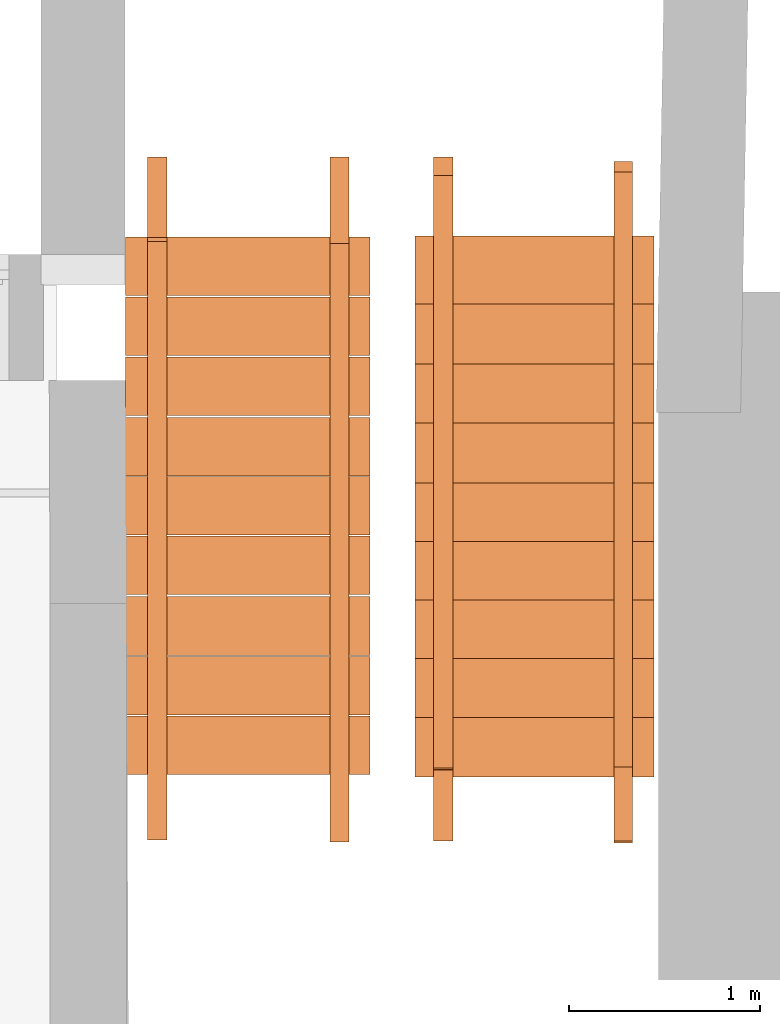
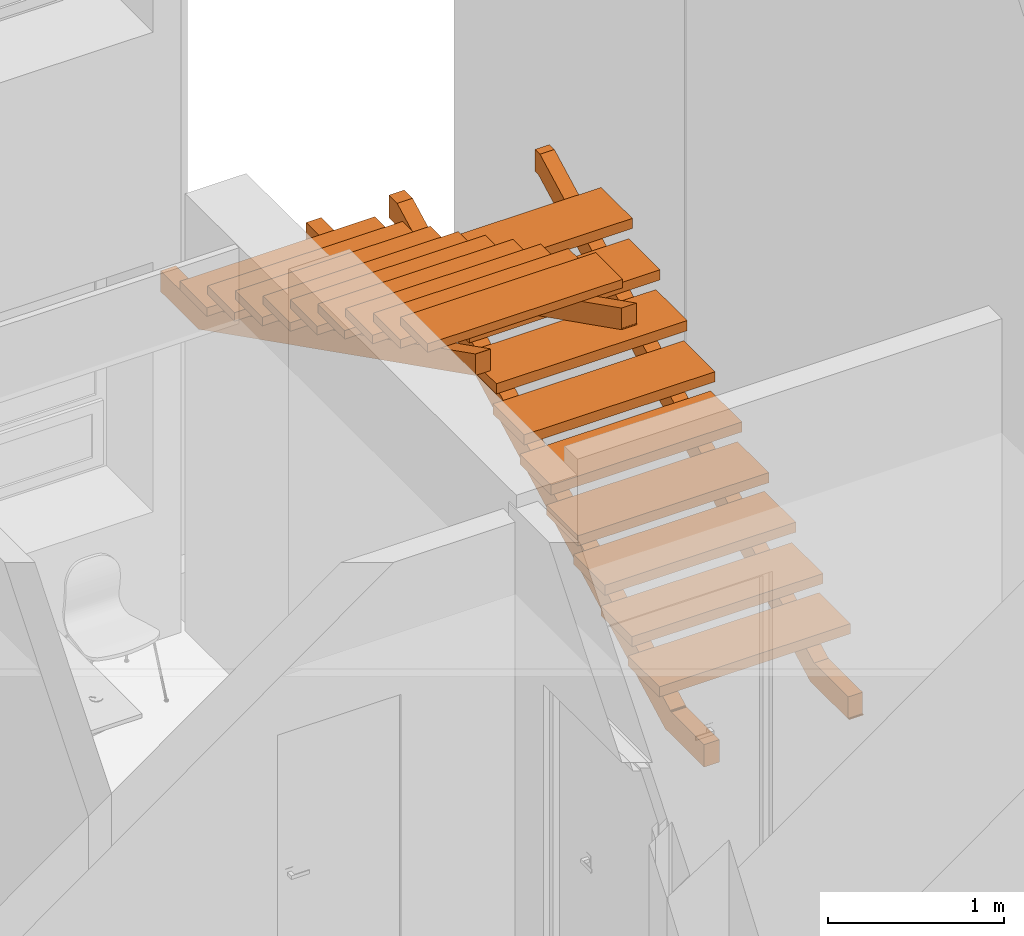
# One storey, part 25 of 25: 6 proxies.
"""IFC2X3 building model written with IfcOpenShell, lengths in millimetres."""

from ifc_helpers import new_model, entity, si_unit, converted_unit, derived_unit, direction, frame, frame_2d, origin, origin_2d_with_axis, place, context, subcontext, project, spatial, polyline, rectangle, outline, extrude, source, transform, mapped, type_object, type_shapes, element, save


model = new_model("IFC2X3")

# Units and contexts
model_context = context("Model", 3, precision=0.01, world=origin(), true_north=direction((6.12303176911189e-17, 1.0)))
context_of_model = context(None, 3, precision=0.01, world=origin(), true_north=direction((6.12303176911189e-17, 1.0)))
body_context = subcontext(model_context, "Body", "Model", "MODEL_VIEW")
ifc_project = project(units=[si_unit("LENGTHUNIT", "METRE", prefix="MILLI"), si_unit("AREAUNIT", "SQUARE_METRE"), si_unit("VOLUMEUNIT", "CUBIC_METRE"), converted_unit("PLANEANGLEUNIT", "DEGREE", entity("IfcRatioMeasure", 0.0174532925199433), si_unit("PLANEANGLEUNIT", "RADIAN"), dimensions=[0, 0, 0, 0, 0, 0, 0]), si_unit("MASSUNIT", "GRAM", prefix="KILO"), derived_unit("MASSDENSITYUNIT", [(si_unit("MASSUNIT", "GRAM", prefix="KILO"), 1), (si_unit("LENGTHUNIT", "METRE"), -3)]), si_unit("TIMEUNIT", "SECOND"), si_unit("FREQUENCYUNIT", "HERTZ"), si_unit("THERMODYNAMICTEMPERATUREUNIT", "DEGREE_CELSIUS"), derived_unit("THERMALTRANSMITTANCEUNIT", [(si_unit("MASSUNIT", "GRAM", prefix="KILO"), 1), (si_unit("THERMODYNAMICTEMPERATUREUNIT", "KELVIN"), -1), (si_unit("TIMEUNIT", "SECOND"), -3)]), derived_unit("VOLUMETRICFLOWRATEUNIT", [(si_unit("LENGTHUNIT", "METRE"), 3), (si_unit("TIMEUNIT", "SECOND"), -1)]), si_unit("ELECTRICCURRENTUNIT", "AMPERE"), si_unit("ELECTRICVOLTAGEUNIT", "VOLT"), si_unit("POWERUNIT", "WATT"), si_unit("FORCEUNIT", "NEWTON", prefix="KILO"), si_unit("ILLUMINANCEUNIT", "LUX"), si_unit("LUMINOUSFLUXUNIT", "LUMEN"), si_unit("LUMINOUSINTENSITYUNIT", "CANDELA"), derived_unit("USERDEFINED", [(si_unit("MASSUNIT", "GRAM", prefix="KILO"), -1), (si_unit("LENGTHUNIT", "METRE"), -2), (si_unit("TIMEUNIT", "SECOND"), 3), (si_unit("LUMINOUSFLUXUNIT", "LUMEN"), 1)]), derived_unit("LINEARVELOCITYUNIT", [(si_unit("LENGTHUNIT", "METRE"), 1), (si_unit("TIMEUNIT", "SECOND"), -1)]), si_unit("PRESSUREUNIT", "PASCAL"), derived_unit("USERDEFINED", [(si_unit("LENGTHUNIT", "METRE"), -2), (si_unit("MASSUNIT", "GRAM", prefix="KILO"), 1), (si_unit("TIMEUNIT", "SECOND"), -2)])], contexts=[model_context, context_of_model])

# Site, building, storey, space
site_placement = place(None, frame((121442.264707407, 135347.995453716, -1800.0)))
site = spatial("IfcSite", under=ifc_project, at=site_placement, Name="Surface", CompositionType="ELEMENT")
building_placement = place(site_placement, origin())
building = spatial("IfcBuilding", under=site, at=building_placement, CompositionType="ELEMENT")
storey_placement = place(building_placement, frame((0.0, 0.0, 1800.0)))
storey = spatial("IfcBuildingStorey", under=building, at=storey_placement, Name="1 korrus", CompositionType="ELEMENT", Elevation=1800.00000000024)
space_placement = place(storey_placement, origin())
space = spatial("IfcSpace", under=storey, at=space_placement, Name="101", CompositionType="ELEMENT", InteriorOrExteriorSpace="INTERNAL")

# Proxies
building_element_proxy_type_1 = type_object("IfcBuildingElementProxyType", Name="Stairs11", PredefinedType="NOTDEFINED")
shared_shape_1 = source(origin(), body_context, "Body", "SweptSolid", [
    extrude(rectangle(XDim=1251.69137401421, YDim=355.000000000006, at=origin_2d_with_axis()), frame((-83176.1173177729, -114762.381891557, 3238.81967137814), z_axis=(0.0, 0.0, 1.0), x_axis=(-1.0, 0.0, 0.0)), (0.0, 0.0, 1.0), 69.9999999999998),
    extrude(rectangle(XDim=1251.69137401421, YDim=355.000000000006, at=origin_2d_with_axis()), frame((-83176.1173177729, -117237.594858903, 1930.25691533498), z_axis=(0.0, 0.0, 1.0), x_axis=(-1.0, 0.0, 0.0)), (0.0, 0.0, 1.0), 70.0000000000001),
    extrude(rectangle(XDim=1251.69137401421, YDim=355.000000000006, at=origin_2d_with_axis()), frame((-83176.1173177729, -116927.98585556, 2090.25691533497), z_axis=(0.0, 0.0, 1.0), x_axis=(-1.0, 0.0, 0.0)), (0.0, 0.0, 1.0), 70.0000000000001),
    extrude(rectangle(XDim=1251.69137401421, YDim=355.000000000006, at=origin_2d_with_axis()), frame((-83176.1173177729, -116617.138640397, 2257.75691533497), z_axis=(0.0, 0.0, 1.0), x_axis=(-1.0, 0.0, 0.0)), (0.0, 0.0, 1.0), 70.0000000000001),
    extrude(rectangle(XDim=1251.69137401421, YDim=355.000000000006, at=frame_2d((0.0, -1.73230318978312e-11), x_axis=(1.0, 0.0))), frame((-83176.1173177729, -116310.882717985, 2415.24674274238), z_axis=(0.0, 0.0, 1.0), x_axis=(-1.0, 0.0, 0.0)), (0.0, 0.0, 1.0), 69.9999999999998),
    extrude(rectangle(XDim=1251.69137401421, YDim=355.000000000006, at=origin_2d_with_axis()), frame((-83176.1173177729, -116006.939473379, 2582.74674274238), z_axis=(0.0, 0.0, 1.0), x_axis=(-1.0, 0.0, 0.0)), (0.0, 0.0, 1.0), 69.9999999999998),
    extrude(rectangle(XDim=1251.69137401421, YDim=355.000000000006, at=frame_2d((0.0, 1.73230318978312e-11), x_axis=(1.0, 0.0))), frame((-83176.1173177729, -115700.977378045, 2745.24674274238), z_axis=(0.0, 0.0, 1.0), x_axis=(-1.0, 0.0, 0.0)), (0.0, 0.0, 1.0), 69.9999999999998),
    extrude(rectangle(XDim=1251.69137401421, YDim=355.000000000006, at=frame_2d((0.0, 1.73230318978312e-11), x_axis=(1.0, 0.0))), frame((-83176.1173177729, -115384.71724709, 2907.74674274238), z_axis=(0.0, 0.0, 1.0), x_axis=(-1.0, 0.0, 0.0)), (0.0, 0.0, 1.0), 69.9999999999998),
    extrude(rectangle(XDim=1251.69137401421, YDim=355.000000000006, at=origin_2d_with_axis()), frame((-83176.1173177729, -115077.381891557, 3073.81967137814), z_axis=(0.0, 0.0, 1.0), x_axis=(-1.0, 0.0, 0.0)), (0.0, 0.0, 1.0), 69.9999999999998),
])
type_shapes(building_element_proxy_type_1, [shared_shape_1])
proxy_1_placement = place(space_placement, frame((0.0, 0.0, -1800.0)))
element("IfcBuildingElementProxy", 1, at=proxy_1_placement, inside=space, type_object=building_element_proxy_type_1, Name="Stairs11:Stairs11", ObjectType="Stairs11", context=body_context, shape_type="MappedRepresentation", body=[
    mapped(shared_shape_1, transform((0.0, 0.0, 0.0), scale=1.0)),
])
building_element_proxy_type_2 = type_object("IfcBuildingElementProxyType", Name="Stairs12", PredefinedType="NOTDEFINED")
shared_shape_2 = source(origin(), body_context, "Body", "SweptSolid", [
    extrude(outline(polyline([(-982.677577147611, 146.328789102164), (-1372.23370149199, -60.8018763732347), (-1368.55249613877, -67.7252167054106), (-1368.40472550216, -67.646645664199), (-1298.78642627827, -198.579623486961), (-970.864686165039, -24.2205414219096), (-967.196294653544, -24.205846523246), (-960.910817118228, -20.8637988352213), (-959.150954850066, -24.1736183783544), (2547.47844145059, -10.1267088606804), (2631.24866778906, 34.4147105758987), (2558.48057555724, 171.271587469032), (2511.56999454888, 146.328789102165), (-982.677577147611, 146.328789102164)])), frame((-83704.5848370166, -116511.516536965, 2203.90971103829), z_axis=(-1.0, 0.0, 0.0), x_axis=(0.0, 0.882947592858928, 0.469471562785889)), (0.0, 0.0, -1.0), 101.436048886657),
])
type_shapes(building_element_proxy_type_2, [shared_shape_2])
proxy_2_placement = place(space_placement, frame((0.0, 0.0, -1800.0)))
element("IfcBuildingElementProxy", 2, at=proxy_2_placement, inside=space, type_object=building_element_proxy_type_2, Name="Stairs12:Stairs12", ObjectType="Stairs12", context=body_context, shape_type="MappedRepresentation", body=[
    mapped(shared_shape_2, transform((0.0, 0.0, 0.0), scale=1.0)),
])
building_element_proxy_type_3 = type_object("IfcBuildingElementProxyType", Name="Stairs12", PredefinedType="NOTDEFINED")
shared_shape_3 = source(origin(), body_context, "Body", "SweptSolid", [
    extrude(outline(polyline([(-1273.30497372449, 136.694514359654), (-1663.84926976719, -70.9615713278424), (-1661.34174332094, -75.6775426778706), (-1653.58369403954, -71.552514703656), (-1583.96539481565, -202.485492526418), (-1241.70635892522, -20.5031350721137), (2276.63676869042, -6.40930251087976), (2325.88324062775, 19.7755110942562), (2254.2888273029, 154.425019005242), (2220.942597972, 136.694514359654), (-1273.30497372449, 136.694514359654)])), frame((-82758.8692462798, -116257.884758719, 2334.34444940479), z_axis=(-1.0, 0.0, 0.0), x_axis=(0.0, 0.882947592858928, 0.469471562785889)), (0.0, 0.0, -1.0), 94.8192762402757),
])
type_shapes(building_element_proxy_type_3, [shared_shape_3])
proxy_3_placement = place(space_placement, frame((0.0, 0.0, -1800.0)))
element("IfcBuildingElementProxy", 3, at=proxy_3_placement, inside=space, type_object=building_element_proxy_type_3, Name="Stairs8:Stairs12", ObjectType="Stairs12", context=body_context, shape_type="MappedRepresentation", body=[
    mapped(shared_shape_3, transform((0.0, 0.0, 0.0), scale=1.0)),
])
building_element_proxy_type_4 = type_object("IfcBuildingElementProxyType", Name="Stairs13", PredefinedType="NOTDEFINED")
shared_shape_4 = source(origin(), body_context, "Body", "SweptSolid", [
    extrude(rectangle(XDim=1279.20528380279, YDim=306.250000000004, at=frame_2d((8.69704308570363e-12, 0.0), x_axis=(1.0, 0.0))), frame((-84675.4163755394, -114741.807194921, 3569.17685020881), z_axis=(0.0, 0.0, 1.0), x_axis=(-1.0, 0.0, 0.0)), (0.0, 0.0, 1.0), 58.7500000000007),
    extrude(rectangle(XDim=1279.20528380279, YDim=306.250000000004, at=frame_2d((8.69704308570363e-12, 0.0), x_axis=(1.0, 0.0))), frame((-84675.4163755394, -117249.238599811, 4841.1266489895), z_axis=(0.0, 0.0, 1.0), x_axis=(-1.0, 0.0, 0.0)), (0.0, 0.0, 1.0), 58.7500000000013),
    extrude(rectangle(XDim=1279.20528380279, YDim=306.250000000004, at=frame_2d((8.69704308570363e-12, 0.0), x_axis=(1.0, 0.0))), frame((-84675.4163755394, -116939.238599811, 4681.1266489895), z_axis=(0.0, 0.0, 1.0), x_axis=(-1.0, 0.0, 0.0)), (0.0, 0.0, 1.0), 58.7500000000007),
    extrude(rectangle(XDim=1279.20528380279, YDim=306.250000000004, at=frame_2d((8.69704308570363e-12, 0.0), x_axis=(1.0, 0.0))), frame((-84675.4163755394, -116625.539759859, 4522.3766489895), z_axis=(0.0, 0.0, 1.0), x_axis=(-1.0, 0.0, 0.0)), (0.0, 0.0, 1.0), 58.7500000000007),
    extrude(rectangle(XDim=1279.20528380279, YDim=306.250000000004, at=frame_2d((8.69704308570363e-12, 0.0), x_axis=(1.0, 0.0))), frame((-84675.4163755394, -116308.039759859, 4361.79297461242), z_axis=(0.0, 0.0, 1.0), x_axis=(-1.0, 0.0, 0.0)), (0.0, 0.0, 1.0), 58.7500000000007),
    extrude(rectangle(XDim=1279.20528380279, YDim=306.250000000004, at=frame_2d((8.69704308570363e-12, 0.0), x_axis=(1.0, 0.0))), frame((-84675.4163755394, -115995.76297756, 4201.79297461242), z_axis=(0.0, 0.0, 1.0), x_axis=(-1.0, 0.0, 0.0)), (0.0, 0.0, 1.0), 58.7500000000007),
    extrude(rectangle(XDim=1279.20528380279, YDim=306.250000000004, at=frame_2d((8.69704308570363e-12, 0.0), x_axis=(1.0, 0.0))), frame((-84675.4163755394, -115688.26297756, 4040.54297461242), z_axis=(0.0, 0.0, 1.0), x_axis=(-1.0, 0.0, 0.0)), (0.0, 0.0, 1.0), 58.7500000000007),
    extrude(rectangle(XDim=1279.20528380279, YDim=306.250000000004, at=frame_2d((8.69704308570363e-12, 0.0), x_axis=(1.0, 0.0))), frame((-84675.4163755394, -115372.01297756, 3885.54297461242), z_axis=(0.0, 0.0, 1.0), x_axis=(-1.0, 0.0, 0.0)), (0.0, 0.0, 1.0), 58.7500000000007),
    extrude(rectangle(XDim=1279.20528380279, YDim=306.250000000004, at=frame_2d((8.69704308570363e-12, 0.0), x_axis=(1.0, 0.0))), frame((-84675.4163755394, -115057.01297756, 3728.04297461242), z_axis=(0.0, 0.0, 1.0), x_axis=(-1.0, 0.0, 0.0)), (0.0, 0.0, 1.0), 58.7500000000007),
])
type_shapes(building_element_proxy_type_4, [shared_shape_4])
proxy_4_placement = place(space_placement, frame((0.0, 0.0, -1800.0)))
element("IfcBuildingElementProxy", 4, at=proxy_4_placement, inside=space, type_object=building_element_proxy_type_4, Name="Stairs13:Stairs13", ObjectType="Stairs13", context=body_context, shape_type="MappedRepresentation", body=[
    mapped(shared_shape_4, transform((0.0, 0.0, 0.0), scale=1.0)),
])
building_element_proxy_type_5 = type_object("IfcBuildingElementProxyType", Name="Stairs14", PredefinedType="NOTDEFINED")
shared_shape_5 = source(origin(), body_context, "Body", "SweptSolid", [
    extrude(outline(polyline([(1298.49753467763, -774.668668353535), (1738.49753467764, -774.668668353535), (1738.49753467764, -619.668668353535), (1317.68932210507, -619.668668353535), (1287.4418114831, -619.668668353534), (-1844.5309344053, 959.503933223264), (-1844.5309344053, 819.06540208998), (-1845.7809344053, 819.065402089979), (-1845.7809344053, 810.708604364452), (1298.49753467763, -774.668668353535)])), frame((-84246.9130565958, -115910.716838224, 4028.54727924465), z_axis=(1.0, 0.0, 0.0), x_axis=(0.0, 1.0, 0.0)), (0.0, 0.0, 1.0), 99.4410474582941),
])
type_shapes(building_element_proxy_type_5, [shared_shape_5])
proxy_5_placement = place(space_placement, frame((0.0, 0.0, -1800.0)))
element("IfcBuildingElementProxy", 5, at=proxy_5_placement, inside=space, type_object=building_element_proxy_type_5, Name="Stairs14:Stairs14", ObjectType="Stairs14", context=body_context, shape_type="MappedRepresentation", body=[
    mapped(shared_shape_5, transform((0.0, 0.0, 0.0), scale=1.0)),
])
building_element_proxy_type_6 = type_object("IfcBuildingElementProxyType", Name="Stairs14", PredefinedType="NOTDEFINED")
shared_shape_6 = source(origin(), body_context, "Body", "SweptSolid", [
    extrude(outline(polyline([(951.542316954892, -628.154849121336), (1381.5423169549, -628.154849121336), (1381.5423169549, -483.129328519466), (960.73410438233, -483.129328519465), (960.73410438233, -473.154849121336), (940.486593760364, -473.154849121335), (-2191.10944913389, 1105.82781496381), (-2192.73615212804, 1105.82781496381), (-2192.73615212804, 957.222423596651), (951.542316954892, -628.154849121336)])), frame((-85200.9652422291, -115563.761620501, 3882.03346001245), z_axis=(1.0, 0.0, 0.0), x_axis=(0.0, 1.0, 0.0)), (0.0, 0.0, 1.0), 101.036933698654),
])
type_shapes(building_element_proxy_type_6, [shared_shape_6])
proxy_6_placement = place(space_placement, frame((0.0, 10.0, -1790.02552060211)))
element("IfcBuildingElementProxy", 6, at=proxy_6_placement, inside=space, type_object=building_element_proxy_type_6, Name="Stairs9:Stairs14", ObjectType="Stairs14", context=body_context, shape_type="MappedRepresentation", body=[
    mapped(shared_shape_6, transform((0.0, 0.0, 0.0), scale=1.0)),
])

save(model, "model.ifc")
